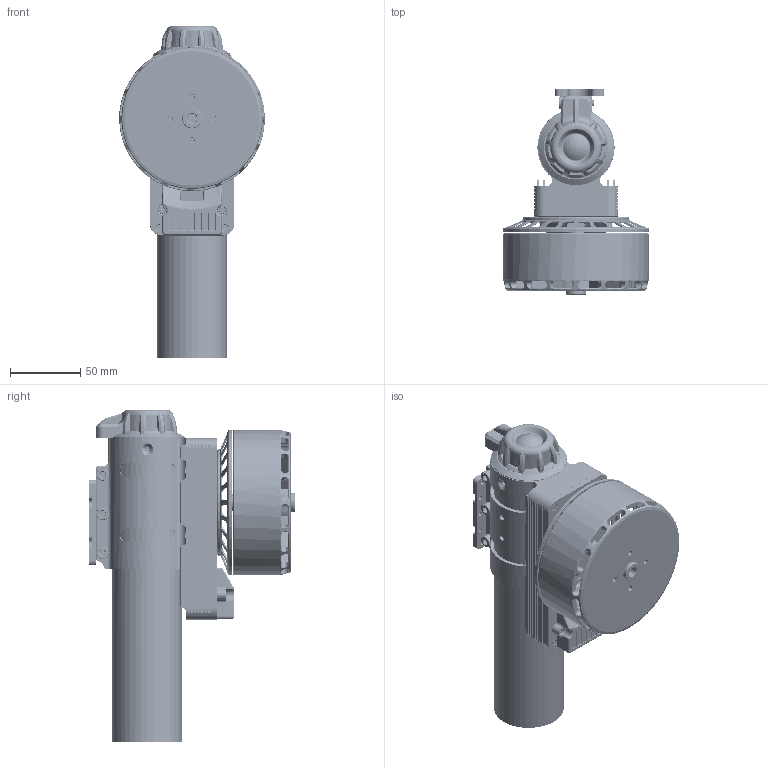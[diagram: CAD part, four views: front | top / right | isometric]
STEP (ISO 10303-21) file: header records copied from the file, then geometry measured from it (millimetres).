
FILE_DESCRIPTION((''),'2;1');
FILE_NAME('1550180B0-50______-M5','2020-07-03T',('owner'),(''),'PRO/ENGINEER BY PARAMETRIC TECHNOLOGY CORPORATION, 2014320','PRO/ENGINEER BY PARAMETRIC TECHNOLOGY CORPORATION, 2014320','');
FILE_SCHEMA(('CONFIG_CONTROL_DESIGN','SHAPE_APPEARANCE_LAYERS_GROUPS'));
Length unit declared in the file: millimetre
Products named in the file (1): 1550180B0-50______-M5
Bounding box: 104 x 146.6 x 237 mm (x, y, z)
Volume: 397996.7 mm3; surface area: 221828.6 mm2
Topology: 3 solids, 19 shells, 5419 faces, 18233 edges, 12152 vertices
Faces by surface type: plane 3051, cylinder 1552, cone 426, bspline 269, torus 102, revolution 8, sphere 7, extrusion 4
Entity records: 270936 total; most frequent: CARTESIAN_POINT 112568, ORIENTED_EDGE 36422, DIRECTION 29234, EDGE_CURVE 18211, VERTEX_POINT 12152, VECTOR 10686, LINE 10682, AXIS2_PLACEMENT_3D 9270
